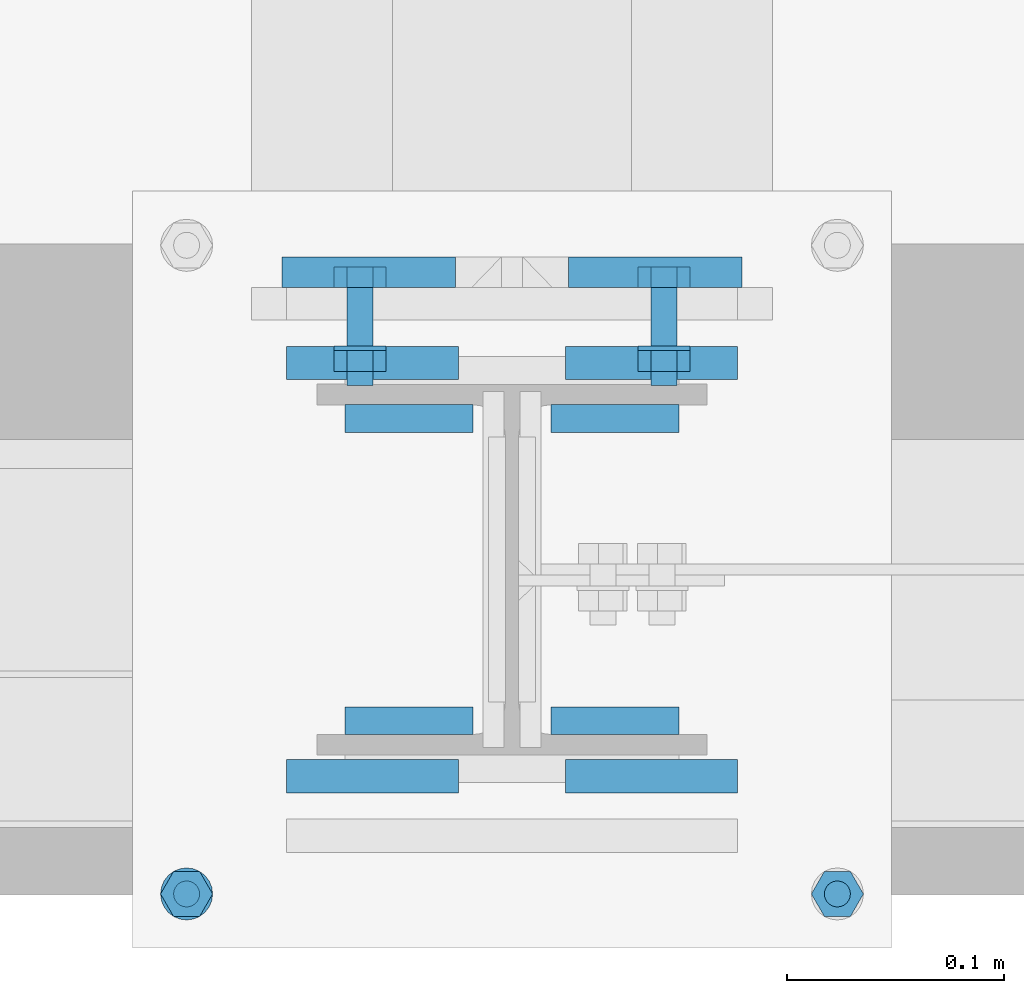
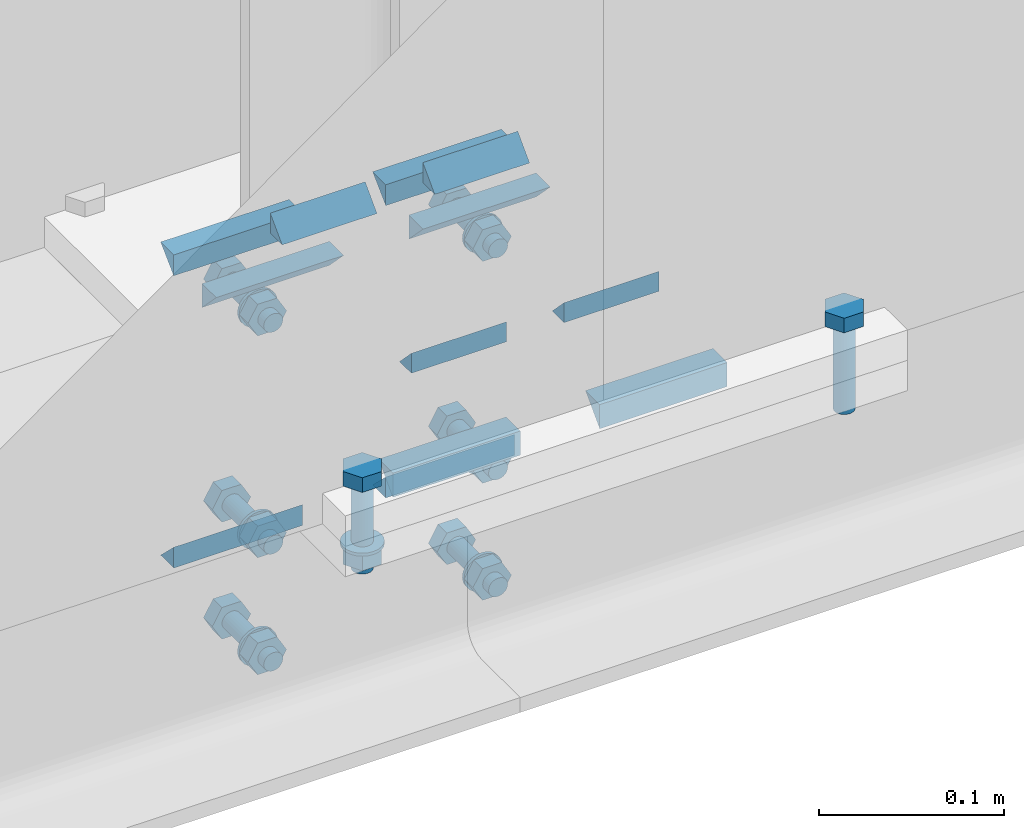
# One storey, part 50 of 66: 30 mechanical fasteners, 20 fasteners.
"""IFC4 building model written with IfcOpenShell, lengths in metres."""

from ifc_helpers import new_model, si_unit, frame, origin_with_axes, place, context, project, spatial, polyline, outline, extrude, type_object, element, save


model = new_model("IFC4")

# Units and contexts
model_context = context("Model", 3, precision=1e-05, world=origin_with_axes())
ifc_project = project(units=[si_unit("LENGTHUNIT", "METRE"), si_unit("AREAUNIT", "SQUARE_METRE"), si_unit("VOLUMEUNIT", "CUBIC_METRE"), si_unit("MASSUNIT", "GRAM", prefix="KILO"), si_unit("TIMEUNIT", "SECOND"), si_unit("PLANEANGLEUNIT", "RADIAN"), si_unit("SOLIDANGLEUNIT", "STERADIAN"), si_unit("THERMODYNAMICTEMPERATUREUNIT", "DEGREE_CELSIUS")], contexts=[model_context])

# Site, building, storey
placement_1 = place(None, origin_with_axes())
site = spatial("IfcSite", under=ifc_project, at=placement_1, Name="Italia", CompositionType="ELEMENT")
building = spatial("IfcBuilding", under=site, at=placement_1, Name="Uffici", CompositionType="ELEMENT")
storey_placement = place(None, frame((0.0, 0.0, 3.299999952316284), z_axis=(0.0, 0.0, 1.0), x_axis=(1.0, 0.0, 0.0)))
storey = spatial("IfcBuildingStorey", under=building, at=storey_placement, Name="Storey 1", CompositionType="ELEMENT", Elevation=3.299999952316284)

# Fasteners
fastener_type_1 = type_object("IfcFastenerType", Name="Collegamenti 0101_-001 0102_-002 0103_-003 0104_-004", PredefinedType="WELD")
placement_2 = place(placement_1, origin_with_axes())
fastener_1_placement = place(placement_2, origin_with_axes())
element("IfcFastener", 1, at=fastener_1_placement, inside=storey, type_object=fastener_type_1, Name="Collegamenti 0101_-001 0102_-002 0103_-003 0104_-004", context=model_context, shape_type="SweptSolid", body=[
    extrude(outline(polyline([(0.0, 0.0), (-0.0141734, 0.0137482), (0.0, 0.0137482), (0.0, 0.0)])), frame((9.42905, 0.12995, 3.2693), z_axis=(-1.0, 0.0, 0.0), x_axis=(0.0, -1.0, 0.0)), (0.0, 0.0, 1.0), 0.0800991),
])
fastener_type_2 = type_object("IfcFastenerType", Name="Collegamenti 0101_-001 0102_-002 0103_-003 0104_-004", PredefinedType="WELD")
fastener_2_placement = place(placement_2, origin_with_axes())
element("IfcFastener", 2, at=fastener_2_placement, inside=storey, type_object=fastener_type_2, Name="Collegamenti 0101_-001 0102_-002 0103_-003 0104_-004", context=model_context, shape_type="SweptSolid", body=[
    extrude(outline(polyline([(0.0, 0.0), (0.0141734, -0.0137482), (0.0, -0.0137482), (0.0, 0.0)])), frame((9.34895, 0.12995, 3.0907), z_axis=(1.0, 0.0, 0.0), x_axis=(0.0, 1.0, 0.0)), (0.0, 0.0, 1.0), 0.0800991),
])
fastener_type_3 = type_object("IfcFastenerType", Name="Collegamenti 0101_-001 0102_-002 0103_-003 0104_-004", PredefinedType="WELD")
fastener_3_placement = place(placement_2, origin_with_axes())
element("IfcFastener", 3, at=fastener_3_placement, inside=storey, type_object=fastener_type_3, Name="Collegamenti 0101_-001 0102_-002 0103_-003 0104_-004", context=model_context, shape_type="SweptSolid", body=[
    extrude(outline(polyline([(0.0, 0.0), (0.0141734, -0.0137482), (0.0, -0.0137482), (0.0, 0.0)])), frame((9.48095, 0.12995, 3.0907), z_axis=(1.0, 0.0, 0.0), x_axis=(0.0, 1.0, 0.0)), (0.0, 0.0, 1.0), 0.0800991),
])
fastener_type_4 = type_object("IfcFastenerType", Name="Collegamenti 0101_-001 0102_-002 0103_-003 0104_-004", PredefinedType="WELD")
fastener_4_placement = place(placement_2, origin_with_axes())
element("IfcFastener", 4, at=fastener_4_placement, inside=storey, type_object=fastener_type_4, Name="Collegamenti 0101_-001 0102_-002 0103_-003 0104_-004", context=model_context, shape_type="SweptSolid", body=[
    extrude(outline(polyline([(0.0, 0.0), (-0.0141733, 0.0137482), (0.0, 0.0137482), (0.0, 0.0)])), frame((9.56105, 0.12995, 3.2693), z_axis=(-1.0, 0.0, 0.0), x_axis=(0.0, -1.0, 0.0)), (0.0, 0.0, 1.0), 0.0800991),
])
fastener_type_5 = type_object("IfcFastenerType", Name="Collegamenti 0101_-001 0102_-002 0103_-003 0104_-004", PredefinedType="WELD")
fastener_5_placement = place(placement_2, origin_with_axes())
element("IfcFastener", 5, at=fastener_5_placement, inside=storey, type_object=fastener_type_5, Name="Collegamenti 0101_-001 0102_-002 0103_-003 0104_-004", context=model_context, shape_type="SweptSolid", body=[
    extrude(outline(polyline([(0.0, 0.0), (-0.0141734, 0.0137482), (0.0, 0.0137482), (0.0, 0.0)])), frame((9.42905, 0.12995, 3.2693), z_axis=(-1.0, 0.0, 0.0), x_axis=(0.0, -1.0, 0.0)), (0.0, 0.0, 1.0), 0.0800991),
])
fastener_type_6 = type_object("IfcFastenerType", Name="Collegamenti 0101_-001 0102_-002 0103_-003 0104_-004", PredefinedType="WELD")
fastener_6_placement = place(placement_2, origin_with_axes())
element("IfcFastener", 6, at=fastener_6_placement, inside=storey, type_object=fastener_type_6, Name="Collegamenti 0101_-001 0102_-002 0103_-003 0104_-004", context=model_context, shape_type="SweptSolid", body=[
    extrude(outline(polyline([(0.0, 0.0), (0.0141734, -0.0137482), (0.0, -0.0137482), (0.0, 0.0)])), frame((9.34895, 0.12995, 3.0907), z_axis=(1.0, 0.0, 0.0), x_axis=(0.0, 1.0, 0.0)), (0.0, 0.0, 1.0), 0.0800991),
])
fastener_type_7 = type_object("IfcFastenerType", Name="Collegamenti 0101_-001 0102_-002 0103_-003 0104_-004", PredefinedType="WELD")
fastener_7_placement = place(placement_2, origin_with_axes())
element("IfcFastener", 7, at=fastener_7_placement, inside=storey, type_object=fastener_type_7, Name="Collegamenti 0101_-001 0102_-002 0103_-003 0104_-004", context=model_context, shape_type="SweptSolid", body=[
    extrude(outline(polyline([(0.0, 0.0), (0.0141734, -0.0137482), (0.0, -0.0137482), (0.0, 0.0)])), frame((9.48095, 0.12995, 3.0907), z_axis=(1.0, 0.0, 0.0), x_axis=(0.0, 1.0, 0.0)), (0.0, 0.0, 1.0), 0.0800991),
])
fastener_type_8 = type_object("IfcFastenerType", Name="Collegamenti 0101_-001 0102_-002 0103_-003 0104_-004", PredefinedType="WELD")
fastener_8_placement = place(placement_2, origin_with_axes())
element("IfcFastener", 8, at=fastener_8_placement, inside=storey, type_object=fastener_type_8, Name="Collegamenti 0101_-001 0102_-002 0103_-003 0104_-004", context=model_context, shape_type="SweptSolid", body=[
    extrude(outline(polyline([(0.0, 0.0), (-0.0141733, 0.0137482), (0.0, 0.0137482), (0.0, 0.0)])), frame((9.56105, 0.12995, 3.2693), z_axis=(-1.0, 0.0, 0.0), x_axis=(0.0, -1.0, 0.0)), (0.0, 0.0, 1.0), 0.0800991),
])

# Mechanical fasteners
mechanical_fastener_type_1 = type_object("IfcMechanicalFastenerType", Name="Collegamenti 0101_-001 0102_-002 0103_-003 0104_-004", PredefinedType="BOLT")
mechanical_fastener_1_placement = place(placement_2, origin_with_axes())
element("IfcMechanicalFastener", 9, at=mechanical_fastener_1_placement, inside=storey, type_object=mechanical_fastener_type_1, Name="Collegamenti 0101_-001 0102_-002 0103_-003 0104_-004", NominalDiameter=0.0119997, context=model_context, shape_type="SweptSolid", body=[
    extrude(outline(polyline([(0.0, 0.0), (-0.0120001, 0.0), (-0.0179996, 0.0103924), (-0.0120001, 0.0207846), (0.0, 0.0207846), (0.00600052, 0.0103924), (0.0, 0.0)])), frame((9.519, 0.13, 3.09661), z_axis=(0.0, 1.0, 0.0), x_axis=(-1.0, 0.0, 0.0)), (0.0, 0.0, 1.0), 0.0096),
])
mechanical_fastener_type_2 = type_object("IfcMechanicalFastenerType", Name="Collegamenti 0101_-001 0102_-002 0103_-003 0104_-004", PredefinedType="BOLT")
mechanical_fastener_2_placement = place(placement_2, origin_with_axes())
element("IfcMechanicalFastener", 10, at=mechanical_fastener_2_placement, inside=storey, type_object=mechanical_fastener_type_2, Name="Collegamenti 0101_-001 0102_-002 0103_-003 0104_-004", NominalDiameter=0.012, context=model_context, shape_type="SweptSolid", body=[
    extrude(outline(polyline([(0.0, 0.0), (-0.000204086, -0.00155282), (-0.000802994, -0.00300002), (-0.00175667, -0.00424266), (-0.00299931, -0.00519609), (-0.00444698, -0.00579548), (-0.00599957, -0.00600004), (-0.00755215, -0.00579548), (-0.00899982, -0.00519609), (-0.0102425, -0.00424266), (-0.0111961, -0.00300002), (-0.011795, -0.00155282), (-0.0119991, 0.0), (-0.011795, 0.00155282), (-0.0111961, 0.00300002), (-0.0102425, 0.00424266), (-0.00899982, 0.00519609), (-0.00755215, 0.00579548), (-0.00599957, 0.00600004), (-0.00444698, 0.00579548), (-0.00299931, 0.00519609), (-0.00175667, 0.00424266), (-0.000802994, 0.00300002), (-0.000204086, 0.00155282), (0.0, 0.0)])), frame((9.519, 0.085, 3.107), z_axis=(0.0, 1.0, 0.0), x_axis=(-1.0, 0.0, 0.0)), (0.0, 0.0, 1.0), 0.045),
])
mechanical_fastener_type_3 = type_object("IfcMechanicalFastenerType", Name="Collegamenti 0101_-001 0102_-002 0103_-003 0104_-004", PredefinedType="BOLT")
mechanical_fastener_3_placement = place(placement_2, origin_with_axes())
element("IfcMechanicalFastener", 11, at=mechanical_fastener_3_placement, inside=storey, type_object=mechanical_fastener_type_3, Name="Collegamenti 0101_-001 0102_-002 0103_-003 0104_-004", NominalDiameter=0.0119997, context=model_context, shape_type="SweptSolid", body=[
    extrude(outline(polyline([(0.0, 0.0), (-0.0120001, 0.0), (-0.0179996, 0.0103924), (-0.0120001, 0.0207846), (0.0, 0.0207846), (0.00600052, 0.0103924), (0.0, 0.0)])), frame((9.519, 0.0914, 3.09661), z_axis=(0.0, 1.0, 0.0), x_axis=(-1.0, 0.0, 0.0)), (0.0, 0.0, 1.0), 0.0096),
])
mechanical_fastener_type_4 = type_object("IfcMechanicalFastenerType", Name="Collegamenti 0101_-001 0102_-002 0103_-003 0104_-004", PredefinedType="BOLT")
mechanical_fastener_4_placement = place(placement_2, origin_with_axes())
element("IfcMechanicalFastener", 12, at=mechanical_fastener_4_placement, inside=storey, type_object=mechanical_fastener_type_4, Name="Collegamenti 0101_-001 0102_-002 0103_-003 0104_-004", NominalDiameter=0.024, context=model_context, shape_type="SweptSolid", body=[
    extrude(outline(polyline([(0.0, 0.0), (-0.000409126, -0.00310588), (-0.00160789, -0.00600004), (-0.00351524, -0.00848532), (-0.00600052, -0.0103922), (-0.00889397, -0.0115912), (-0.0120001, -0.0120001), (-0.0151062, -0.0115912), (-0.0179996, -0.0103922), (-0.0204849, -0.00848532), (-0.0223923, -0.00600004), (-0.023591, -0.00310588), (-0.0240002, 0.0), (-0.023591, 0.00310588), (-0.0223923, 0.00600004), (-0.0204849, 0.00848532), (-0.0179996, 0.0103922), (-0.0151062, 0.0115912), (-0.0120001, 0.0120001), (-0.00889397, 0.0115912), (-0.00600052, 0.0103922), (-0.00351524, 0.00848532), (-0.00160789, 0.00600004), (-0.000409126, 0.00310588), (0.0, 0.0)])), frame((9.513, 0.101, 3.107), z_axis=(0.0, 1.0, 0.0), x_axis=(-1.0, 0.0, 0.0)), (0.0, 0.0, 1.0), 0.002),
])
mechanical_fastener_type_5 = type_object("IfcMechanicalFastenerType", Name="Collegamenti 0101_-001 0102_-002 0103_-003 0104_-004", PredefinedType="BOLT")
mechanical_fastener_5_placement = place(placement_2, origin_with_axes())
element("IfcMechanicalFastener", 13, at=mechanical_fastener_5_placement, inside=storey, type_object=mechanical_fastener_type_5, Name="Collegamenti 0101_-001 0102_-002 0103_-003 0104_-004", NominalDiameter=0.0119997, context=model_context, shape_type="SweptSolid", body=[
    extrude(outline(polyline([(0.0, 0.0), (-0.0120001, 0.0), (-0.0180006, 0.0103924), (-0.0120001, 0.0207846), (0.0, 0.0207846), (0.00599957, 0.0103924), (0.0, 0.0)])), frame((9.379, 0.13, 3.09661), z_axis=(0.0, 1.0, 0.0), x_axis=(-1.0, 0.0, 0.0)), (0.0, 0.0, 1.0), 0.0096),
])
mechanical_fastener_type_6 = type_object("IfcMechanicalFastenerType", Name="Collegamenti 0101_-001 0102_-002 0103_-003 0104_-004", PredefinedType="BOLT")
mechanical_fastener_6_placement = place(placement_2, origin_with_axes())
element("IfcMechanicalFastener", 14, at=mechanical_fastener_6_placement, inside=storey, type_object=mechanical_fastener_type_6, Name="Collegamenti 0101_-001 0102_-002 0103_-003 0104_-004", NominalDiameter=0.012, context=model_context, shape_type="SweptSolid", body=[
    extrude(outline(polyline([(0.0, 0.0), (-0.000204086, -0.00155282), (-0.000802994, -0.00300002), (-0.00175667, -0.00424266), (-0.00299931, -0.00519609), (-0.00444698, -0.00579548), (-0.00599957, -0.00600004), (-0.00755215, -0.00579548), (-0.00899982, -0.00519609), (-0.0102425, -0.00424266), (-0.0111961, -0.00300002), (-0.011795, -0.00155282), (-0.0119991, 0.0), (-0.011795, 0.00155282), (-0.0111961, 0.00300002), (-0.0102425, 0.00424266), (-0.00899982, 0.00519609), (-0.00755215, 0.00579548), (-0.00599957, 0.00600004), (-0.00444698, 0.00579548), (-0.00299931, 0.00519609), (-0.00175667, 0.00424266), (-0.000802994, 0.00300002), (-0.000204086, 0.00155282), (0.0, 0.0)])), frame((9.379, 0.085, 3.107), z_axis=(0.0, 1.0, 0.0), x_axis=(-1.0, 0.0, 0.0)), (0.0, 0.0, 1.0), 0.045),
])
mechanical_fastener_type_7 = type_object("IfcMechanicalFastenerType", Name="Collegamenti 0101_-001 0102_-002 0103_-003 0104_-004", PredefinedType="BOLT")
mechanical_fastener_7_placement = place(placement_2, origin_with_axes())
element("IfcMechanicalFastener", 15, at=mechanical_fastener_7_placement, inside=storey, type_object=mechanical_fastener_type_7, Name="Collegamenti 0101_-001 0102_-002 0103_-003 0104_-004", NominalDiameter=0.0119997, context=model_context, shape_type="SweptSolid", body=[
    extrude(outline(polyline([(0.0, 0.0), (-0.0120001, 0.0), (-0.0180006, 0.0103924), (-0.0120001, 0.0207846), (0.0, 0.0207846), (0.00599957, 0.0103924), (0.0, 0.0)])), frame((9.379, 0.0914, 3.09661), z_axis=(0.0, 1.0, 0.0), x_axis=(-1.0, 0.0, 0.0)), (0.0, 0.0, 1.0), 0.00960001),
])
mechanical_fastener_type_8 = type_object("IfcMechanicalFastenerType", Name="Collegamenti 0101_-001 0102_-002 0103_-003 0104_-004", PredefinedType="BOLT")
mechanical_fastener_8_placement = place(placement_2, origin_with_axes())
element("IfcMechanicalFastener", 16, at=mechanical_fastener_8_placement, inside=storey, type_object=mechanical_fastener_type_8, Name="Collegamenti 0101_-001 0102_-002 0103_-003 0104_-004", NominalDiameter=0.024, context=model_context, shape_type="SweptSolid", body=[
    extrude(outline(polyline([(0.0, 0.0), (-0.000409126, -0.00310588), (-0.00160789, -0.00600004), (-0.00351524, -0.00848532), (-0.00600052, -0.0103922), (-0.00889397, -0.0115912), (-0.0120001, -0.0120001), (-0.0151062, -0.0115912), (-0.0179996, -0.0103922), (-0.0204849, -0.00848532), (-0.0223923, -0.00600004), (-0.023591, -0.00310588), (-0.0240002, 0.0), (-0.023591, 0.00310588), (-0.0223923, 0.00600004), (-0.0204849, 0.00848532), (-0.0179996, 0.0103922), (-0.0151062, 0.0115912), (-0.0120001, 0.0120001), (-0.00889397, 0.0115912), (-0.00600052, 0.0103922), (-0.00351524, 0.00848532), (-0.00160789, 0.00600004), (-0.000409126, 0.00310588), (0.0, 0.0)])), frame((9.373, 0.101, 3.107), z_axis=(0.0, 1.0, 0.0), x_axis=(-1.0, 0.0, 0.0)), (0.0, 0.0, 1.0), 0.002),
])
mechanical_fastener_type_9 = type_object("IfcMechanicalFastenerType", Name="Collegamenti 0101_-001 0102_-002 0103_-003 0104_-004", PredefinedType="BOLT")
mechanical_fastener_9_placement = place(placement_2, origin_with_axes())
element("IfcMechanicalFastener", 17, at=mechanical_fastener_9_placement, inside=storey, type_object=mechanical_fastener_type_9, Name="Collegamenti 0101_-001 0102_-002 0103_-003 0104_-004", NominalDiameter=0.0119997, context=model_context, shape_type="SweptSolid", body=[
    extrude(outline(polyline([(0.0, 0.0), (-0.0120001, 0.0), (-0.0179996, 0.0103922), (-0.0120001, 0.0207846), (0.0, 0.0207846), (0.00600052, 0.0103922), (0.0, 0.0)])), frame((9.519, 0.13, 3.24261), z_axis=(0.0, 1.0, 0.0), x_axis=(-1.0, 0.0, 0.0)), (0.0, 0.0, 1.0), 0.0096),
])
mechanical_fastener_type_10 = type_object("IfcMechanicalFastenerType", Name="Collegamenti 0101_-001 0102_-002 0103_-003 0104_-004", PredefinedType="BOLT")
mechanical_fastener_10_placement = place(placement_2, origin_with_axes())
element("IfcMechanicalFastener", 18, at=mechanical_fastener_10_placement, inside=storey, type_object=mechanical_fastener_type_10, Name="Collegamenti 0101_-001 0102_-002 0103_-003 0104_-004", NominalDiameter=0.012, context=model_context, shape_type="SweptSolid", body=[
    extrude(outline(polyline([(0.0, 0.0), (-0.000204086, -0.00155282), (-0.000802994, -0.00300002), (-0.00175667, -0.00424266), (-0.00299931, -0.00519609), (-0.00444698, -0.00579548), (-0.00599957, -0.00600004), (-0.00755215, -0.00579548), (-0.00899982, -0.00519609), (-0.0102425, -0.00424266), (-0.0111961, -0.00300002), (-0.011795, -0.00155282), (-0.0119991, 0.0), (-0.011795, 0.00155282), (-0.0111961, 0.00300002), (-0.0102425, 0.00424266), (-0.00899982, 0.00519609), (-0.00755215, 0.00579548), (-0.00599957, 0.00600004), (-0.00444698, 0.00579548), (-0.00299931, 0.00519609), (-0.00175667, 0.00424266), (-0.000802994, 0.00300002), (-0.000204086, 0.00155282), (0.0, 0.0)])), frame((9.519, 0.085, 3.253), z_axis=(0.0, 1.0, 0.0), x_axis=(-1.0, 0.0, 0.0)), (0.0, 0.0, 1.0), 0.045),
])
mechanical_fastener_type_11 = type_object("IfcMechanicalFastenerType", Name="Collegamenti 0101_-001 0102_-002 0103_-003 0104_-004", PredefinedType="BOLT")
mechanical_fastener_11_placement = place(placement_2, origin_with_axes())
element("IfcMechanicalFastener", 19, at=mechanical_fastener_11_placement, inside=storey, type_object=mechanical_fastener_type_11, Name="Collegamenti 0101_-001 0102_-002 0103_-003 0104_-004", NominalDiameter=0.0119997, context=model_context, shape_type="SweptSolid", body=[
    extrude(outline(polyline([(0.0, 0.0), (-0.0120001, 0.0), (-0.0179996, 0.0103922), (-0.0120001, 0.0207846), (0.0, 0.0207846), (0.00600052, 0.0103922), (0.0, 0.0)])), frame((9.519, 0.0914, 3.24261), z_axis=(0.0, 1.0, 0.0), x_axis=(-1.0, 0.0, 0.0)), (0.0, 0.0, 1.0), 0.0096),
])
mechanical_fastener_type_12 = type_object("IfcMechanicalFastenerType", Name="Collegamenti 0101_-001 0102_-002 0103_-003 0104_-004", PredefinedType="BOLT")
mechanical_fastener_12_placement = place(placement_2, origin_with_axes())
element("IfcMechanicalFastener", 20, at=mechanical_fastener_12_placement, inside=storey, type_object=mechanical_fastener_type_12, Name="Collegamenti 0101_-001 0102_-002 0103_-003 0104_-004", NominalDiameter=0.024, context=model_context, shape_type="SweptSolid", body=[
    extrude(outline(polyline([(0.0, 0.0), (-0.000409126, -0.00310588), (-0.00160789, -0.00600004), (-0.00351524, -0.00848532), (-0.00600052, -0.0103922), (-0.00889397, -0.0115912), (-0.0120001, -0.0120001), (-0.0151062, -0.0115912), (-0.0179996, -0.0103922), (-0.0204849, -0.00848532), (-0.0223923, -0.00600004), (-0.023591, -0.00310588), (-0.0240002, 0.0), (-0.023591, 0.00310588), (-0.0223923, 0.00600004), (-0.0204849, 0.00848532), (-0.0179996, 0.0103922), (-0.0151062, 0.0115912), (-0.0120001, 0.0120001), (-0.00889397, 0.0115912), (-0.00600052, 0.0103922), (-0.00351524, 0.00848532), (-0.00160789, 0.00600004), (-0.000409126, 0.00310588), (0.0, 0.0)])), frame((9.513, 0.101, 3.253), z_axis=(0.0, 1.0, 0.0), x_axis=(-1.0, 0.0, 0.0)), (0.0, 0.0, 1.0), 0.002),
])
mechanical_fastener_type_13 = type_object("IfcMechanicalFastenerType", Name="Collegamenti 0101_-001 0102_-002 0103_-003 0104_-004", PredefinedType="BOLT")
mechanical_fastener_13_placement = place(placement_2, origin_with_axes())
element("IfcMechanicalFastener", 21, at=mechanical_fastener_13_placement, inside=storey, type_object=mechanical_fastener_type_13, Name="Collegamenti 0101_-001 0102_-002 0103_-003 0104_-004", NominalDiameter=0.0119997, context=model_context, shape_type="SweptSolid", body=[
    extrude(outline(polyline([(0.0, 0.0), (-0.0120001, 0.0), (-0.0180006, 0.0103922), (-0.0120001, 0.0207846), (0.0, 0.0207846), (0.00599957, 0.0103922), (0.0, 0.0)])), frame((9.379, 0.13, 3.24261), z_axis=(0.0, 1.0, 0.0), x_axis=(-1.0, 0.0, 0.0)), (0.0, 0.0, 1.0), 0.0096),
])
mechanical_fastener_type_14 = type_object("IfcMechanicalFastenerType", Name="Collegamenti 0101_-001 0102_-002 0103_-003 0104_-004", PredefinedType="BOLT")
mechanical_fastener_14_placement = place(placement_2, origin_with_axes())
element("IfcMechanicalFastener", 22, at=mechanical_fastener_14_placement, inside=storey, type_object=mechanical_fastener_type_14, Name="Collegamenti 0101_-001 0102_-002 0103_-003 0104_-004", NominalDiameter=0.012, context=model_context, shape_type="SweptSolid", body=[
    extrude(outline(polyline([(0.0, 0.0), (-0.000204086, -0.00155282), (-0.000802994, -0.00300002), (-0.00175667, -0.00424266), (-0.00299931, -0.00519609), (-0.00444698, -0.00579548), (-0.00599957, -0.00600004), (-0.00755215, -0.00579548), (-0.00899982, -0.00519609), (-0.0102425, -0.00424266), (-0.0111961, -0.00300002), (-0.011795, -0.00155282), (-0.0119991, 0.0), (-0.011795, 0.00155282), (-0.0111961, 0.00300002), (-0.0102425, 0.00424266), (-0.00899982, 0.00519609), (-0.00755215, 0.00579548), (-0.00599957, 0.00600004), (-0.00444698, 0.00579548), (-0.00299931, 0.00519609), (-0.00175667, 0.00424266), (-0.000802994, 0.00300002), (-0.000204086, 0.00155282), (0.0, 0.0)])), frame((9.379, 0.085, 3.253), z_axis=(0.0, 1.0, 0.0), x_axis=(-1.0, 0.0, 0.0)), (0.0, 0.0, 1.0), 0.045),
])
mechanical_fastener_type_15 = type_object("IfcMechanicalFastenerType", Name="Collegamenti 0101_-001 0102_-002 0103_-003 0104_-004", PredefinedType="BOLT")
mechanical_fastener_15_placement = place(placement_2, origin_with_axes())
element("IfcMechanicalFastener", 23, at=mechanical_fastener_15_placement, inside=storey, type_object=mechanical_fastener_type_15, Name="Collegamenti 0101_-001 0102_-002 0103_-003 0104_-004", NominalDiameter=0.0119997, context=model_context, shape_type="SweptSolid", body=[
    extrude(outline(polyline([(0.0, 0.0), (-0.0120001, 0.0), (-0.0180006, 0.0103922), (-0.0120001, 0.0207846), (0.0, 0.0207846), (0.00599957, 0.0103922), (0.0, 0.0)])), frame((9.379, 0.0914, 3.24261), z_axis=(0.0, 1.0, 0.0), x_axis=(-1.0, 0.0, 0.0)), (0.0, 0.0, 1.0), 0.00960001),
])
mechanical_fastener_type_16 = type_object("IfcMechanicalFastenerType", Name="Collegamenti 0101_-001 0102_-002 0103_-003 0104_-004", PredefinedType="BOLT")
mechanical_fastener_16_placement = place(placement_2, origin_with_axes())
element("IfcMechanicalFastener", 24, at=mechanical_fastener_16_placement, inside=storey, type_object=mechanical_fastener_type_16, Name="Collegamenti 0101_-001 0102_-002 0103_-003 0104_-004", NominalDiameter=0.024, context=model_context, shape_type="SweptSolid", body=[
    extrude(outline(polyline([(0.0, 0.0), (-0.000409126, -0.00310588), (-0.00160789, -0.00600004), (-0.00351524, -0.00848532), (-0.00600052, -0.0103922), (-0.00889397, -0.0115912), (-0.0120001, -0.0120001), (-0.0151062, -0.0115912), (-0.0179996, -0.0103922), (-0.0204849, -0.00848532), (-0.0223923, -0.00600004), (-0.023591, -0.00310588), (-0.0240002, 0.0), (-0.023591, 0.00310588), (-0.0223923, 0.00600004), (-0.0204849, 0.00848532), (-0.0179996, 0.0103922), (-0.0151062, 0.0115912), (-0.0120001, 0.0120001), (-0.00889397, 0.0115912), (-0.00600052, 0.0103922), (-0.00351524, 0.00848532), (-0.00160789, 0.00600004), (-0.000409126, 0.00310588), (0.0, 0.0)])), frame((9.373, 0.101, 3.253), z_axis=(0.0, 1.0, 0.0), x_axis=(-1.0, 0.0, 0.0)), (0.0, 0.0, 1.0), 0.002),
])
mechanical_fastener_type_17 = type_object("IfcMechanicalFastenerType", Name="Collegamenti 0101_-001 0102_-002 0103_-003 0104_-004", PredefinedType="BOLT")
mechanical_fastener_17_placement = place(placement_2, origin_with_axes())
element("IfcMechanicalFastener", 25, at=mechanical_fastener_17_placement, inside=storey, type_object=mechanical_fastener_type_17, Name="Collegamenti 0101_-001 0102_-002 0103_-003 0104_-004", NominalDiameter=0.0119997, context=model_context, shape_type="SweptSolid", body=[
    extrude(outline(polyline([(0.0, 0.0), (-0.0120001, 0.0), (-0.0179996, 0.0103922), (-0.0120001, 0.0207846), (0.0, 0.0207846), (0.00600052, 0.0103922), (0.0, 0.0)])), frame((9.519, 0.13, 3.01961), z_axis=(0.0, 1.0, 0.0), x_axis=(-1.0, 0.0, 0.0)), (0.0, 0.0, 1.0), 0.0096),
])
mechanical_fastener_type_18 = type_object("IfcMechanicalFastenerType", Name="Collegamenti 0101_-001 0102_-002 0103_-003 0104_-004", PredefinedType="BOLT")
mechanical_fastener_18_placement = place(placement_2, origin_with_axes())
element("IfcMechanicalFastener", 26, at=mechanical_fastener_18_placement, inside=storey, type_object=mechanical_fastener_type_18, Name="Collegamenti 0101_-001 0102_-002 0103_-003 0104_-004", NominalDiameter=0.012, context=model_context, shape_type="SweptSolid", body=[
    extrude(outline(polyline([(0.0, 0.0), (-0.000204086, -0.00155282), (-0.000802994, -0.00300002), (-0.00175667, -0.00424266), (-0.00299931, -0.00519609), (-0.00444698, -0.00579548), (-0.00599957, -0.00600004), (-0.00755215, -0.00579548), (-0.00899982, -0.00519609), (-0.0102425, -0.00424266), (-0.0111961, -0.00300002), (-0.011795, -0.00155282), (-0.0119991, 0.0), (-0.011795, 0.00155282), (-0.0111961, 0.00300002), (-0.0102425, 0.00424266), (-0.00899982, 0.00519609), (-0.00755215, 0.00579548), (-0.00599957, 0.00600004), (-0.00444698, 0.00579548), (-0.00299931, 0.00519609), (-0.00175667, 0.00424266), (-0.000802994, 0.00300002), (-0.000204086, 0.00155282), (0.0, 0.0)])), frame((9.519, 0.085, 3.03), z_axis=(0.0, 1.0, 0.0), x_axis=(-1.0, 0.0, 0.0)), (0.0, 0.0, 1.0), 0.045),
])
mechanical_fastener_type_19 = type_object("IfcMechanicalFastenerType", Name="Collegamenti 0101_-001 0102_-002 0103_-003 0104_-004", PredefinedType="BOLT")
mechanical_fastener_19_placement = place(placement_2, origin_with_axes())
element("IfcMechanicalFastener", 27, at=mechanical_fastener_19_placement, inside=storey, type_object=mechanical_fastener_type_19, Name="Collegamenti 0101_-001 0102_-002 0103_-003 0104_-004", NominalDiameter=0.0119997, context=model_context, shape_type="SweptSolid", body=[
    extrude(outline(polyline([(0.0, 0.0), (-0.0120001, 0.0), (-0.0179996, 0.0103922), (-0.0120001, 0.0207846), (0.0, 0.0207846), (0.00600052, 0.0103922), (0.0, 0.0)])), frame((9.519, 0.0914, 3.01961), z_axis=(0.0, 1.0, 0.0), x_axis=(-1.0, 0.0, 0.0)), (0.0, 0.0, 1.0), 0.0096),
])
mechanical_fastener_type_20 = type_object("IfcMechanicalFastenerType", Name="Collegamenti 0101_-001 0102_-002 0103_-003 0104_-004", PredefinedType="BOLT")
mechanical_fastener_20_placement = place(placement_2, origin_with_axes())
element("IfcMechanicalFastener", 28, at=mechanical_fastener_20_placement, inside=storey, type_object=mechanical_fastener_type_20, Name="Collegamenti 0101_-001 0102_-002 0103_-003 0104_-004", NominalDiameter=0.024, context=model_context, shape_type="SweptSolid", body=[
    extrude(outline(polyline([(0.0, 0.0), (-0.000409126, -0.00310588), (-0.00160789, -0.00600004), (-0.00351524, -0.00848532), (-0.00600052, -0.0103922), (-0.00889397, -0.0115912), (-0.0120001, -0.0120001), (-0.0151062, -0.0115912), (-0.0179996, -0.0103922), (-0.0204849, -0.00848532), (-0.0223923, -0.00600004), (-0.023591, -0.00310588), (-0.0240002, 0.0), (-0.023591, 0.00310588), (-0.0223923, 0.00600004), (-0.0204849, 0.00848532), (-0.0179996, 0.0103922), (-0.0151062, 0.0115912), (-0.0120001, 0.0120001), (-0.00889397, 0.0115912), (-0.00600052, 0.0103922), (-0.00351524, 0.00848532), (-0.00160789, 0.00600004), (-0.000409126, 0.00310588), (0.0, 0.0)])), frame((9.513, 0.101, 3.03), z_axis=(0.0, 1.0, 0.0), x_axis=(-1.0, 0.0, 0.0)), (0.0, 0.0, 1.0), 0.002),
])
mechanical_fastener_type_21 = type_object("IfcMechanicalFastenerType", Name="Collegamenti 0101_-001 0102_-002 0103_-003 0104_-004", PredefinedType="BOLT")
mechanical_fastener_21_placement = place(placement_2, origin_with_axes())
element("IfcMechanicalFastener", 29, at=mechanical_fastener_21_placement, inside=storey, type_object=mechanical_fastener_type_21, Name="Collegamenti 0101_-001 0102_-002 0103_-003 0104_-004", NominalDiameter=0.0119997, context=model_context, shape_type="SweptSolid", body=[
    extrude(outline(polyline([(0.0, 0.0), (-0.0120001, 0.0), (-0.0180006, 0.0103922), (-0.0120001, 0.0207846), (0.0, 0.0207846), (0.00599957, 0.0103922), (0.0, 0.0)])), frame((9.379, 0.13, 3.01961), z_axis=(0.0, 1.0, 0.0), x_axis=(-1.0, 0.0, 0.0)), (0.0, 0.0, 1.0), 0.0096),
])
mechanical_fastener_type_22 = type_object("IfcMechanicalFastenerType", Name="Collegamenti 0101_-001 0102_-002 0103_-003 0104_-004", PredefinedType="BOLT")
mechanical_fastener_22_placement = place(placement_2, origin_with_axes())
element("IfcMechanicalFastener", 30, at=mechanical_fastener_22_placement, inside=storey, type_object=mechanical_fastener_type_22, Name="Collegamenti 0101_-001 0102_-002 0103_-003 0104_-004", NominalDiameter=0.012, context=model_context, shape_type="SweptSolid", body=[
    extrude(outline(polyline([(0.0, 0.0), (-0.000204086, -0.00155282), (-0.000802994, -0.00300002), (-0.00175667, -0.00424266), (-0.00299931, -0.00519609), (-0.00444698, -0.00579548), (-0.00599957, -0.00600004), (-0.00755215, -0.00579548), (-0.00899982, -0.00519609), (-0.0102425, -0.00424266), (-0.0111961, -0.00300002), (-0.011795, -0.00155282), (-0.0119991, 0.0), (-0.011795, 0.00155282), (-0.0111961, 0.00300002), (-0.0102425, 0.00424266), (-0.00899982, 0.00519609), (-0.00755215, 0.00579548), (-0.00599957, 0.00600004), (-0.00444698, 0.00579548), (-0.00299931, 0.00519609), (-0.00175667, 0.00424266), (-0.000802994, 0.00300002), (-0.000204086, 0.00155282), (0.0, 0.0)])), frame((9.379, 0.085, 3.03), z_axis=(0.0, 1.0, 0.0), x_axis=(-1.0, 0.0, 0.0)), (0.0, 0.0, 1.0), 0.045),
])
mechanical_fastener_type_23 = type_object("IfcMechanicalFastenerType", Name="Collegamenti 0101_-001 0102_-002 0103_-003 0104_-004", PredefinedType="BOLT")
mechanical_fastener_23_placement = place(placement_2, origin_with_axes())
element("IfcMechanicalFastener", 31, at=mechanical_fastener_23_placement, inside=storey, type_object=mechanical_fastener_type_23, Name="Collegamenti 0101_-001 0102_-002 0103_-003 0104_-004", NominalDiameter=0.0119997, context=model_context, shape_type="SweptSolid", body=[
    extrude(outline(polyline([(0.0, 0.0), (-0.0120001, 0.0), (-0.0180006, 0.0103922), (-0.0120001, 0.0207846), (0.0, 0.0207846), (0.00599957, 0.0103922), (0.0, 0.0)])), frame((9.379, 0.0914, 3.01961), z_axis=(0.0, 1.0, 0.0), x_axis=(-1.0, 0.0, 0.0)), (0.0, 0.0, 1.0), 0.00960001),
])
mechanical_fastener_type_24 = type_object("IfcMechanicalFastenerType", Name="Collegamenti 0101_-001 0102_-002 0103_-003 0104_-004", PredefinedType="BOLT")
mechanical_fastener_24_placement = place(placement_2, origin_with_axes())
element("IfcMechanicalFastener", 32, at=mechanical_fastener_24_placement, inside=storey, type_object=mechanical_fastener_type_24, Name="Collegamenti 0101_-001 0102_-002 0103_-003 0104_-004", NominalDiameter=0.024, context=model_context, shape_type="SweptSolid", body=[
    extrude(outline(polyline([(0.0, 0.0), (-0.000409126, -0.00310588), (-0.00160789, -0.00600004), (-0.00351524, -0.00848532), (-0.00600052, -0.0103922), (-0.00889397, -0.0115912), (-0.0120001, -0.0120001), (-0.0151062, -0.0115912), (-0.0179996, -0.0103922), (-0.0204849, -0.00848532), (-0.0223923, -0.00600004), (-0.023591, -0.00310588), (-0.0240002, 0.0), (-0.023591, 0.00310588), (-0.0223923, 0.00600004), (-0.0204849, 0.00848532), (-0.0179996, 0.0103922), (-0.0151062, 0.0115912), (-0.0120001, 0.0120001), (-0.00889397, 0.0115912), (-0.00600052, 0.0103922), (-0.00351524, 0.00848532), (-0.00160789, 0.00600004), (-0.000409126, 0.00310588), (0.0, 0.0)])), frame((9.373, 0.101, 3.03), z_axis=(0.0, 1.0, 0.0), x_axis=(-1.0, 0.0, 0.0)), (0.0, 0.0, 1.0), 0.002),
])

# Fasteners
fastener_type_9 = type_object("IfcFastenerType", Name="Collegamenti 0101_0201 0102_0202 0103_0203 0104_0204 0105_0205", PredefinedType="WELD")
fastener_9_placement = place(placement_2, origin_with_axes())
element("IfcFastener", 33, at=fastener_9_placement, inside=storey, type_object=fastener_type_9, Name="Collegamenti 0101_0201 0102_0202 0103_0203 0104_0204 0105_0205", context=model_context, shape_type="SweptSolid", body=[
    extrude(outline(polyline([(0.0, 0.0), (0.0127782, 0.0131733), (0.0127782, 0.0), (0.0, 0.0)])), frame((9.47295, 0.0632718, 3.31995), z_axis=(1.0, 0.0, 0.0), x_axis=(0.0, 1.0, 0.0)), (0.0, 0.0, 1.0), 0.0591002),
])
fastener_type_10 = type_object("IfcFastenerType", Name="Collegamenti 0101_0201 0102_0202 0103_0203 0104_0204 0105_0205", PredefinedType="WELD")
fastener_10_placement = place(placement_2, origin_with_axes())
element("IfcFastener", 34, at=fastener_10_placement, inside=storey, type_object=fastener_type_10, Name="Collegamenti 0101_0201 0102_0202 0103_0203 0104_0204 0105_0205", context=model_context, shape_type="SweptSolid", body=[
    extrude(outline(polyline([(0.0, 0.0), (0.0127782, 0.0131733), (0.0127782, 0.0), (0.0, 0.0)])), frame((9.53205, -0.0632718, 3.31995), z_axis=(-1.0, 0.0, 0.0), x_axis=(0.0, -1.0, 0.0)), (0.0, 0.0, 1.0), 0.0591002),
])
fastener_type_11 = type_object("IfcFastenerType", Name="Collegamenti 0101_0201 0102_0202 0103_0203 0104_0204 0105_0205", PredefinedType="WELD")
fastener_11_placement = place(placement_2, origin_with_axes())
element("IfcFastener", 35, at=fastener_11_placement, inside=storey, type_object=fastener_type_11, Name="Collegamenti 0101_0201 0102_0202 0103_0203 0104_0204 0105_0205", context=model_context, shape_type="SweptSolid", body=[
    extrude(outline(polyline([(0.0, 0.0), (0.0127782, 0.0131733), (0.0127782, 0.0), (0.0, 0.0)])), frame((9.43705, -0.0632718, 3.31995), z_axis=(-1.0, 0.0, 0.0), x_axis=(0.0, -1.0, 0.0)), (0.0, 0.0, 1.0), 0.0591002),
])
fastener_type_12 = type_object("IfcFastenerType", Name="Collegamenti 0101_0201 0102_0202 0103_0203 0104_0204 0105_0205", PredefinedType="WELD")
fastener_12_placement = place(placement_2, origin_with_axes())
element("IfcFastener", 36, at=fastener_12_placement, inside=storey, type_object=fastener_type_12, Name="Collegamenti 0101_0201 0102_0202 0103_0203 0104_0204 0105_0205", context=model_context, shape_type="SweptSolid", body=[
    extrude(outline(polyline([(0.0, 0.0), (0.0127782, 0.0131733), (0.0127782, 0.0), (0.0, 0.0)])), frame((9.37795, 0.0632718, 3.31995), z_axis=(1.0, 0.0, 0.0), x_axis=(0.0, 1.0, 0.0)), (0.0, 0.0, 1.0), 0.0591002),
])
fastener_type_13 = type_object("IfcFastenerType", Name="Collegamenti 0101_0201 0102_0202 0103_0203 0104_0204 0105_0205", PredefinedType="WELD")
fastener_13_placement = place(placement_2, origin_with_axes())
element("IfcFastener", 37, at=fastener_13_placement, inside=storey, type_object=fastener_type_13, Name="Collegamenti 0101_0201 0102_0202 0103_0203 0104_0204 0105_0205", context=model_context, shape_type="SweptSolid", body=[
    extrude(outline(polyline([(0.0, 0.0), (0.0127782, 0.0131733), (0.0127782, 0.0), (0.0, 0.0)])), frame((9.47295, 0.0632718, 3.31995), z_axis=(1.0, 0.0, 0.0), x_axis=(0.0, 1.0, 0.0)), (0.0, 0.0, 1.0), 0.0591002),
])
fastener_type_14 = type_object("IfcFastenerType", Name="Collegamenti 0101_0201 0102_0202 0103_0203 0104_0204 0105_0205", PredefinedType="WELD")
fastener_14_placement = place(placement_2, origin_with_axes())
element("IfcFastener", 38, at=fastener_14_placement, inside=storey, type_object=fastener_type_14, Name="Collegamenti 0101_0201 0102_0202 0103_0203 0104_0204 0105_0205", context=model_context, shape_type="SweptSolid", body=[
    extrude(outline(polyline([(0.0, 0.0), (0.0127782, 0.0131733), (0.0127782, 0.0), (0.0, 0.0)])), frame((9.53205, -0.0632718, 3.31995), z_axis=(-1.0, 0.0, 0.0), x_axis=(0.0, -1.0, 0.0)), (0.0, 0.0, 1.0), 0.0591002),
])
fastener_type_15 = type_object("IfcFastenerType", Name="Collegamenti 0101_0201 0102_0202 0103_0203 0104_0204 0105_0205", PredefinedType="WELD")
fastener_15_placement = place(placement_2, origin_with_axes())
element("IfcFastener", 39, at=fastener_15_placement, inside=storey, type_object=fastener_type_15, Name="Collegamenti 0101_0201 0102_0202 0103_0203 0104_0204 0105_0205", context=model_context, shape_type="SweptSolid", body=[
    extrude(outline(polyline([(0.0, 0.0), (0.0127782, 0.0131733), (0.0127782, 0.0), (0.0, 0.0)])), frame((9.43705, -0.0632718, 3.31995), z_axis=(-1.0, 0.0, 0.0), x_axis=(0.0, -1.0, 0.0)), (0.0, 0.0, 1.0), 0.0591002),
])
fastener_type_16 = type_object("IfcFastenerType", Name="Collegamenti 0101_0201 0102_0202 0103_0203 0104_0204 0105_0205", PredefinedType="WELD")
fastener_16_placement = place(placement_2, origin_with_axes())
element("IfcFastener", 40, at=fastener_16_placement, inside=storey, type_object=fastener_type_16, Name="Collegamenti 0101_0201 0102_0202 0103_0203 0104_0204 0105_0205", context=model_context, shape_type="SweptSolid", body=[
    extrude(outline(polyline([(0.0, 0.0), (0.0127782, 0.0131733), (0.0127782, 0.0), (0.0, 0.0)])), frame((9.37795, 0.0632718, 3.31995), z_axis=(1.0, 0.0, 0.0), x_axis=(0.0, 1.0, 0.0)), (0.0, 0.0, 1.0), 0.0591002),
])
fastener_type_17 = type_object("IfcFastenerType", Name="Collegamenti 0101_0201 0102_0202 0103_0203 0104_0204 0105_0205", PredefinedType="WELD")
fastener_17_placement = place(placement_2, origin_with_axes())
element("IfcFastener", 41, at=fastener_17_placement, inside=storey, type_object=fastener_type_17, Name="Collegamenti 0101_0201 0102_0202 0103_0203 0104_0204 0105_0205", context=model_context, shape_type="SweptSolid", body=[
    extrude(outline(polyline([(0.0, 0.0), (0.0153518, -0.0158267), (0.0153518, 0.0), (0.0, 0.0)])), frame((9.4797, 0.0875982, 3.27995), z_axis=(1.0, -9.3895729e-08, 0.0), x_axis=(9.3895729e-08, 1.0, 0.0)), (0.0, 0.0, 1.0), 0.0793495),
])
fastener_type_18 = type_object("IfcFastenerType", Name="Collegamenti 0101_0201 0102_0202 0103_0203 0104_0204 0105_0205", PredefinedType="WELD")
fastener_18_placement = place(placement_2, origin_with_axes())
element("IfcFastener", 42, at=fastener_18_placement, inside=storey, type_object=fastener_type_18, Name="Collegamenti 0101_0201 0102_0202 0103_0203 0104_0204 0105_0205", context=model_context, shape_type="SweptSolid", body=[
    extrude(outline(polyline([(0.0, 0.0), (0.0153518, -0.0158267), (0.0153518, 0.0), (0.0, 0.0)])), frame((9.55905, -0.0875982, 3.27995), z_axis=(-1.0, 9.3895729e-08, 0.0), x_axis=(-9.3895729e-08, -1.0, 0.0)), (0.0, 0.0, 1.0), 0.0793495),
])
fastener_type_19 = type_object("IfcFastenerType", Name="Collegamenti 0101_0201 0102_0202 0103_0203 0104_0204 0105_0205", PredefinedType="WELD")
fastener_19_placement = place(placement_2, origin_with_axes())
element("IfcFastener", 43, at=fastener_19_placement, inside=storey, type_object=fastener_type_19, Name="Collegamenti 0101_0201 0102_0202 0103_0203 0104_0204 0105_0205", context=model_context, shape_type="SweptSolid", body=[
    extrude(outline(polyline([(0.0, 0.0), (0.0153518, -0.0158267), (0.0153518, 0.0), (0.0, 0.0)])), frame((9.4303, -0.0875982, 3.27995), z_axis=(-1.0, 9.3895729e-08, 0.0), x_axis=(-9.3895729e-08, -1.0, 0.0)), (0.0, 0.0, 1.0), 0.0793495),
])
fastener_type_20 = type_object("IfcFastenerType", Name="Collegamenti 0101_0201 0102_0202 0103_0203 0104_0204 0105_0205", PredefinedType="WELD")
fastener_20_placement = place(placement_2, origin_with_axes())
element("IfcFastener", 44, at=fastener_20_placement, inside=storey, type_object=fastener_type_20, Name="Collegamenti 0101_0201 0102_0202 0103_0203 0104_0204 0105_0205", context=model_context, shape_type="SweptSolid", body=[
    extrude(outline(polyline([(0.0, 0.0), (0.0153518, -0.0158267), (0.0153518, 0.0), (0.0, 0.0)])), frame((9.35095, 0.0875982, 3.27995), z_axis=(1.0, -9.3895729e-08, 0.0), x_axis=(9.3895729e-08, 1.0, 0.0)), (0.0, 0.0, 1.0), 0.0793495),
])

# Mechanical fasteners
mechanical_fastener_type_25 = type_object("IfcMechanicalFastenerType", Name="Collegamenti 0101_0201 0102_0202 0103_0203 0104_0204 0105_0205", PredefinedType="BOLT")
mechanical_fastener_25_placement = place(placement_2, origin_with_axes())
element("IfcMechanicalFastener", 45, at=mechanical_fastener_25_placement, inside=storey, type_object=mechanical_fastener_type_25, Name="Collegamenti 0101_0201 0102_0202 0103_0203 0104_0204 0105_0205", NominalDiameter=0.0119998, context=model_context, shape_type="SweptSolid", body=[
    extrude(outline(polyline([(0.0, 0.0), (0.0, 0.0120001), (0.0103923, 0.0179996), (0.0207846, 0.0120001), (0.0207846, 0.0), (0.0103923, -0.00599957), (0.0, 0.0)])), frame((9.311, -0.159892, 3.32), z_axis=(0.0, 0.0, 1.0), x_axis=(0.0, 1.0, 0.0)), (0.0, 0.0, 1.0), 0.00959992),
])
mechanical_fastener_type_26 = type_object("IfcMechanicalFastenerType", Name="Collegamenti 0101_0201 0102_0202 0103_0203 0104_0204 0105_0205", PredefinedType="BOLT")
mechanical_fastener_26_placement = place(placement_2, origin_with_axes())
element("IfcMechanicalFastener", 46, at=mechanical_fastener_26_placement, inside=storey, type_object=mechanical_fastener_type_26, Name="Collegamenti 0101_0201 0102_0202 0103_0203 0104_0204 0105_0205", NominalDiameter=0.012, context=model_context, shape_type="SweptSolid", body=[
    extrude(outline(polyline([(0.0, 0.0), (-0.000204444, -0.00155258), (-0.000803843, -0.00300026), (-0.00175735, -0.0042429), (-0.00299999, -0.00519657), (-0.00444709, -0.00579548), (-0.006, -0.00599957), (-0.00755291, -0.00579548), (-0.009, -0.00519657), (-0.0102426, -0.0042429), (-0.0111962, -0.00300026), (-0.0117956, -0.00155258), (-0.012, 0.0), (-0.0117956, 0.00155258), (-0.0111962, 0.00300026), (-0.0102426, 0.0042429), (-0.009, 0.00519657), (-0.00755291, 0.00579548), (-0.006, 0.00599957), (-0.00444709, 0.00579548), (-0.00299999, 0.00519657), (-0.00175735, 0.0042429), (-0.000803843, 0.00300026), (-0.000204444, 0.00155258), (0.0, 0.0)])), frame((9.305, -0.1435, 3.262), z_axis=(0.0, 0.0, 1.0), x_axis=(0.0, 1.0, 0.0)), (0.0, 0.0, 1.0), 0.0580001),
])
mechanical_fastener_type_27 = type_object("IfcMechanicalFastenerType", Name="Collegamenti 0101_0201 0102_0202 0103_0203 0104_0204 0105_0205", PredefinedType="BOLT")
mechanical_fastener_27_placement = place(placement_2, origin_with_axes())
element("IfcMechanicalFastener", 47, at=mechanical_fastener_27_placement, inside=storey, type_object=mechanical_fastener_type_27, Name="Collegamenti 0101_0201 0102_0202 0103_0203 0104_0204 0105_0205", NominalDiameter=0.0119998, context=model_context, shape_type="SweptSolid", body=[
    extrude(outline(polyline([(0.0, 0.0), (0.0, 0.0120001), (0.0103923, 0.0179996), (0.0207846, 0.0120001), (0.0207846, 0.0), (0.0103923, -0.00599957), (0.0, 0.0)])), frame((9.311, -0.159892, 3.2684), z_axis=(0.0, 0.0, 1.0), x_axis=(0.0, 1.0, 0.0)), (0.0, 0.0, 1.0), 0.00959992),
])
mechanical_fastener_type_28 = type_object("IfcMechanicalFastenerType", Name="Collegamenti 0101_0201 0102_0202 0103_0203 0104_0204 0105_0205", PredefinedType="BOLT")
mechanical_fastener_28_placement = place(placement_2, origin_with_axes())
element("IfcMechanicalFastener", 48, at=mechanical_fastener_28_placement, inside=storey, type_object=mechanical_fastener_type_28, Name="Collegamenti 0101_0201 0102_0202 0103_0203 0104_0204 0105_0205", NominalDiameter=0.024, context=model_context, shape_type="SweptSolid", body=[
    extrude(outline(polyline([(0.0, 0.0), (-0.000408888, -0.00310612), (-0.00160769, -0.00599957), (-0.00351471, -0.00848484), (-0.006, -0.0103922), (-0.00889416, -0.011591), (-0.012, -0.0120001), (-0.0151058, -0.011591), (-0.018, -0.0103922), (-0.0204853, -0.00848484), (-0.0223923, -0.00599957), (-0.0235911, -0.00310612), (-0.024, 0.0), (-0.0235911, 0.00310612), (-0.0223923, 0.00599957), (-0.0204853, 0.00848484), (-0.018, 0.0103922), (-0.0151058, 0.011591), (-0.012, 0.0120001), (-0.00889416, 0.011591), (-0.006, 0.0103922), (-0.00351471, 0.00848484), (-0.00160769, 0.00599957), (-0.000408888, 0.00310612), (0.0, 0.0)])), frame((9.305, -0.1375, 3.278), z_axis=(0.0, 0.0, 1.0), x_axis=(0.0, 1.0, 0.0)), (0.0, 0.0, 1.0), 0.00200009),
])
mechanical_fastener_type_29 = type_object("IfcMechanicalFastenerType", Name="Collegamenti 0101_0201 0102_0202 0103_0203 0104_0204 0105_0205", PredefinedType="BOLT")
mechanical_fastener_29_placement = place(placement_2, origin_with_axes())
element("IfcMechanicalFastener", 49, at=mechanical_fastener_29_placement, inside=storey, type_object=mechanical_fastener_type_29, Name="Collegamenti 0101_0201 0102_0202 0103_0203 0104_0204 0105_0205", NominalDiameter=0.0119998, context=model_context, shape_type="SweptSolid", body=[
    extrude(outline(polyline([(0.0, 0.0), (0.0, 0.0120001), (0.0103923, 0.0179996), (0.0207846, 0.0120001), (0.0207846, 0.0), (0.0103923, -0.00599957), (0.0, 0.0)])), frame((9.611, -0.159892, 3.32), z_axis=(0.0, 0.0, 1.0), x_axis=(0.0, 1.0, 0.0)), (0.0, 0.0, 1.0), 0.00959992),
])
mechanical_fastener_type_30 = type_object("IfcMechanicalFastenerType", Name="Collegamenti 0101_0201 0102_0202 0103_0203 0104_0204 0105_0205", PredefinedType="BOLT")
mechanical_fastener_30_placement = place(placement_2, origin_with_axes())
element("IfcMechanicalFastener", 50, at=mechanical_fastener_30_placement, inside=storey, type_object=mechanical_fastener_type_30, Name="Collegamenti 0101_0201 0102_0202 0103_0203 0104_0204 0105_0205", NominalDiameter=0.012, context=model_context, shape_type="SweptSolid", body=[
    extrude(outline(polyline([(0.0, 0.0), (-0.000204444, -0.00155258), (-0.000803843, -0.00300026), (-0.00175735, -0.0042429), (-0.00299999, -0.00519657), (-0.00444709, -0.00579548), (-0.006, -0.00599957), (-0.00755291, -0.00579548), (-0.009, -0.00519657), (-0.0102426, -0.0042429), (-0.0111962, -0.00300026), (-0.0117956, -0.00155258), (-0.012, 0.0), (-0.0117956, 0.00155258), (-0.0111962, 0.00300026), (-0.0102426, 0.0042429), (-0.009, 0.00519657), (-0.00755291, 0.00579548), (-0.006, 0.00599957), (-0.00444709, 0.00579548), (-0.00299999, 0.00519657), (-0.00175735, 0.0042429), (-0.000803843, 0.00300026), (-0.000204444, 0.00155258), (0.0, 0.0)])), frame((9.605, -0.1435, 3.262), z_axis=(0.0, 0.0, 1.0), x_axis=(0.0, 1.0, 0.0)), (0.0, 0.0, 1.0), 0.0580001),
])

save(model, "model.ifc")
